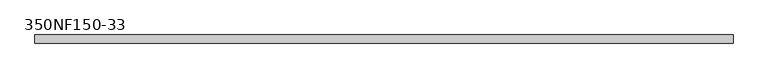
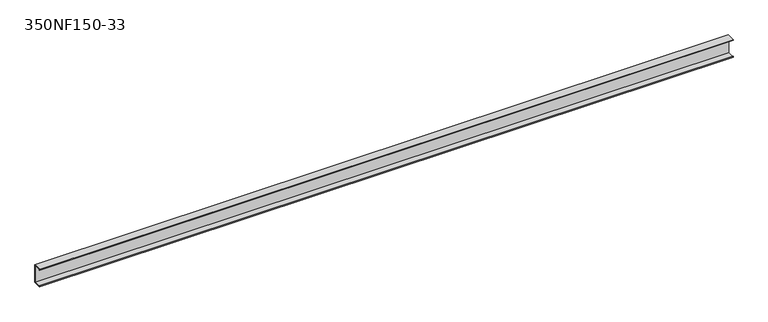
"""IFC4 building model written with IfcOpenShell, lengths in millimetres: beam geometry, BIMSF-SSMA-S : 350NF150-33."""

from ifc_helpers import new_model, si_unit, frame, origin, place, context, project, spatial, polyline, outline, extrude, source, transform, mapped, element, save


def beam_350nf150_33_f021e00d(model_context):
    return source(origin(), model_context, "Body", "SweptSolid", [
        extrude(outline(polyline([(19.05, 44.45), (19.05, -44.45), (-19.05, -44.45), (-19.05, -39.6748), (-18.1676842, -39.6748), (-18.1676842, -43.5676842), (18.1676842, -43.5676842), (18.1676842, 43.5676842), (-18.1676842, 43.5676842), (-18.1676842, 39.6748), (-19.05, 39.6748), (-19.05, 44.45), (19.05, 44.45)])), frame((-1642.7433964, 0.0, 0.0), z_axis=(1.0, 0.0, 0.0), x_axis=(0.0, 1.0, 0.0)), (0.0, 0.0, 1.0), 3285.4867928),
    ])


if __name__ == "__main__":
    model = new_model("IFC4")
    model_context = context("Model", 3, world=origin())
    ifc_project = project(units=[si_unit("LENGTHUNIT", "METRE", prefix="MILLI")], contexts=[model_context])
    site = spatial("IfcSite", under=ifc_project)
    building = spatial("IfcBuilding", under=site)
    placement = place(None, origin())
    beam_350nf150_33_shape = beam_350nf150_33_f021e00d(model_context)
    element("IfcBeam", 1, ObjectType="BIMSF-SSMA-S : 350NF150-33", at=placement, inside=building, context=model_context, shape_type="MappedRepresentation", body=[
        mapped(beam_350nf150_33_shape, transform((0.0, 0.0, 0.0), x_axis=(1.0, 0.0, 0.0), y_axis=(0.0, 1.0, 0.0), z_axis=(0.0, 0.0, 1.0))),
    ])
    save(model, "model.ifc")
